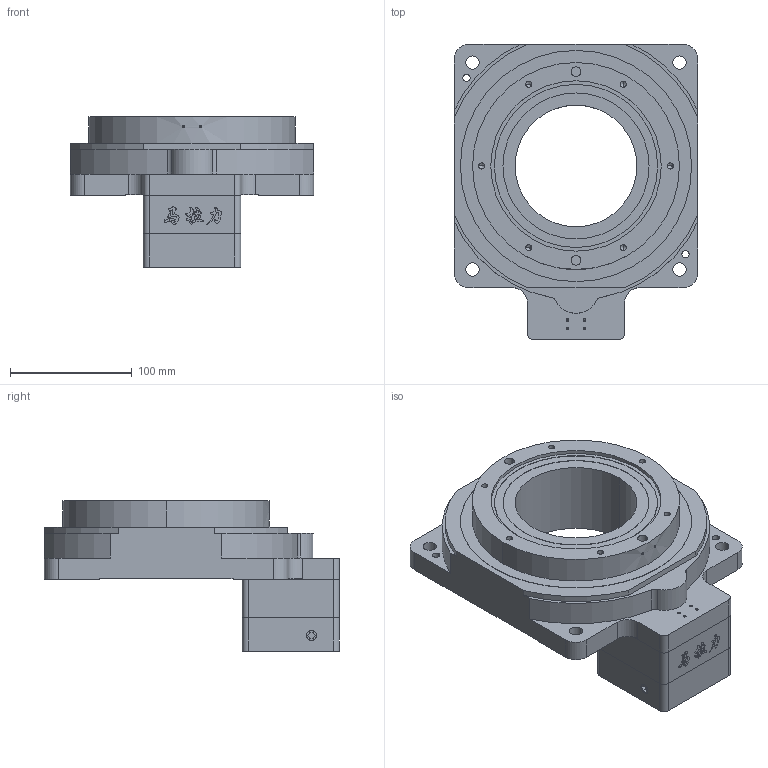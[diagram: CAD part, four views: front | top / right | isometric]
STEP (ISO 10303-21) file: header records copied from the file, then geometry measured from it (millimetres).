
FILE_DESCRIPTION (( 'STEP AP214' ), '1' );
FILE_NAME ('马拉力中空旋转平台MAK200-(750W伺服19-70-90-M5).STEP', '2024-05-09T11:10:17', ( '' ), ( '' ), 'SwSTEP 2.0', 'SolidWorks 2010', '' );
FILE_SCHEMA (( 'AUTOMOTIVE_DESIGN' ));
Length unit declared in the file: millimetre
Products named in the file (1): 马拉力中空旋转平台MAK200-(750W伺服19-70-90-M5)
Bounding box: 200 x 242.6 x 123.5 mm (x, y, z)
Volume: 1946612.3 mm3; surface area: 196062.4 mm2
Topology: 3 solids, 3 shells, 321 faces, 857 edges, 546 vertices
Faces by surface type: cylinder 117, bspline 87, plane 85, cone 32
Entity records: 15354 total; most frequent: CARTESIAN_POINT 6752, ORIENTED_EDGE 1650, DIRECTION 1355, EDGE_CURVE 825, VERTEX_POINT 546, AXIS2_PLACEMENT_3D 473, VECTOR 409, LINE 409
